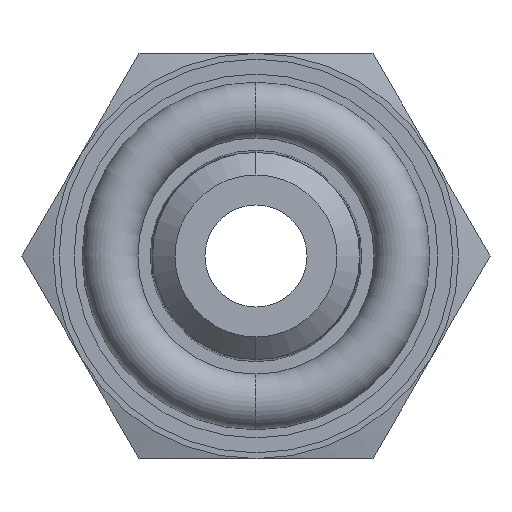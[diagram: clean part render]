
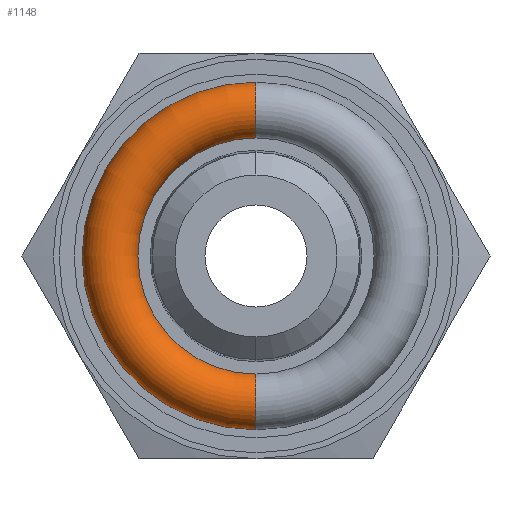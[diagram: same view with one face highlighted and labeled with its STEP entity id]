
A CAD part, left-side view. The second image highlights one B-rep face of the part: STEP entity #1148.
In plain terms, the highlighted toroidal (fillet/blend) face has major radius 6.86 mm and minor radius 1.31 mm.
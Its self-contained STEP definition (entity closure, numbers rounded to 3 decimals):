
#154 = DIRECTION ( 'NONE',  ( 0., 0., 1. ) ) ;
#155 = DIRECTION ( 'NONE',  ( 0., 1., 0. ) ) ;
#156 = CARTESIAN_POINT ( 'NONE',  ( -3.61, 0., 6.86 ) ) ;
#157 = AXIS2_PLACEMENT_3D ( 'NONE', #156, #155, #154 ) ;
#158 = CIRCLE ( 'NONE', #157, 1.31 ) ;
#159 = DIRECTION ( 'NONE',  ( 0., 0., -1. ) ) ;
#160 = DIRECTION ( 'NONE',  ( 0., -1., 0. ) ) ;
#161 = CARTESIAN_POINT ( 'NONE',  ( -3.61, 0., -6.86 ) ) ;
#162 = AXIS2_PLACEMENT_3D ( 'NONE', #161, #160, #159 ) ;
#163 = DIRECTION ( 'NONE',  ( 0., 0., -1. ) ) ;
#164 = DIRECTION ( 'NONE',  ( 1., 0., 0. ) ) ;
#165 = CARTESIAN_POINT ( 'NONE',  ( -3.61, 0., 0. ) ) ;
#166 = AXIS2_PLACEMENT_3D ( 'NONE', #165, #164, #163 ) ;
#167 = CIRCLE ( 'NONE', #162, 1.31 ) ;
#168 = TOROIDAL_SURFACE ( 'NONE', #166, 6.86, 1.31 ) ;
#169 = FACE_OUTER_BOUND ( 'NONE', #1149, .T. ) ;
#170 = DIRECTION ( 'NONE',  ( 0., 0., -1. ) ) ;
#171 = DIRECTION ( 'NONE',  ( 1., 0., 0. ) ) ;
#172 = CARTESIAN_POINT ( 'NONE',  ( -3.61, 0., 0. ) ) ;
#173 = AXIS2_PLACEMENT_3D ( 'NONE', #172, #171, #170 ) ;
#174 = CIRCLE ( 'NONE', #173, 5.55 ) ;
#175 = DIRECTION ( 'NONE',  ( 0., 0., -1. ) ) ;
#176 = DIRECTION ( 'NONE',  ( 1., 0., 0. ) ) ;
#177 = CARTESIAN_POINT ( 'NONE',  ( -3.61, 0., 0. ) ) ;
#178 = AXIS2_PLACEMENT_3D ( 'NONE', #177, #176, #175 ) ;
#179 = CIRCLE ( 'NONE', #178, 8.17 ) ;
#245 = CARTESIAN_POINT ( 'NONE',  ( -3.61, 0., -5.55 ) ) ;
#251 = CARTESIAN_POINT ( 'NONE',  ( -3.61, 0., -8.17 ) ) ;
#300 = CARTESIAN_POINT ( 'NONE',  ( -3.61, 0., 5.55 ) ) ;
#311 = CARTESIAN_POINT ( 'NONE',  ( -3.61, 0., 8.17 ) ) ;
#1144 = EDGE_CURVE ( 'NONE', #1330, #1325, #179, .T. ) ;
#1147 = EDGE_CURVE ( 'NONE', #1333, #1327, #174, .T. ) ;
#1148 = ADVANCED_FACE ( 'NONE', ( #169 ), #168, .T. ) ;
#1149 = EDGE_LOOP ( 'NONE', ( #1150, #1151, #1153, #1154 ) ) ;
#1150 = ORIENTED_EDGE ( 'NONE', *, *, #1144, .F. ) ;
#1151 = ORIENTED_EDGE ( 'NONE', *, *, #1152, .F. ) ;
#1152 = EDGE_CURVE ( 'NONE', #1333, #1330, #167, .T. ) ;
#1153 = ORIENTED_EDGE ( 'NONE', *, *, #1147, .T. ) ;
#1154 = ORIENTED_EDGE ( 'NONE', *, *, #1155, .T. ) ;
#1155 = EDGE_CURVE ( 'NONE', #1327, #1325, #158, .T. ) ;
#1325 = VERTEX_POINT ( 'NONE', #311 ) ;
#1327 = VERTEX_POINT ( 'NONE', #300 ) ;
#1330 = VERTEX_POINT ( 'NONE', #251 ) ;
#1333 = VERTEX_POINT ( 'NONE', #245 ) ;
